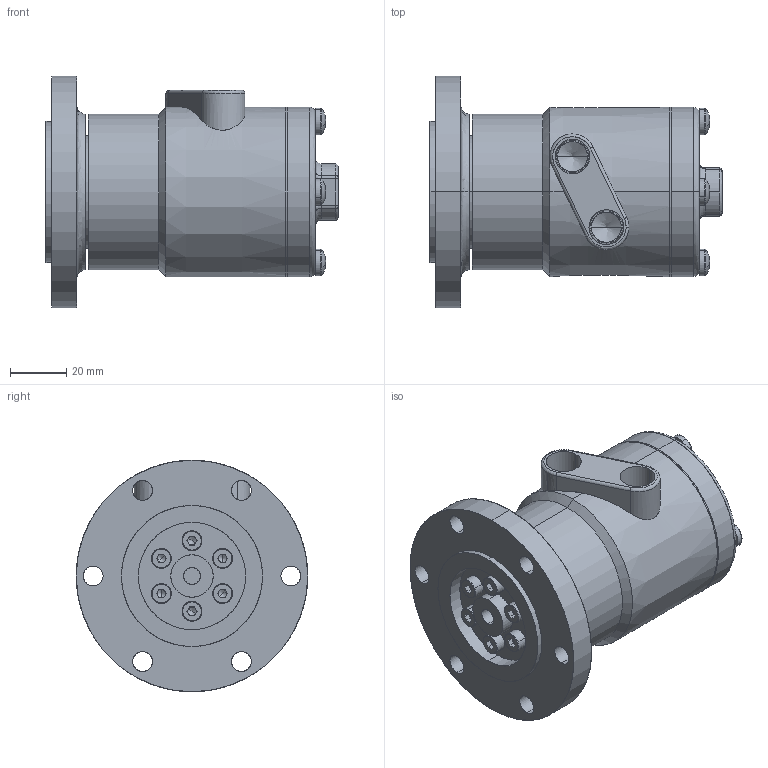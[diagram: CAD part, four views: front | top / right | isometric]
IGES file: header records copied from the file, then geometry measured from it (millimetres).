
Start section: SolidWorks IGES file using analytic representation for surfaces
Global section: file name: D:\Custom\3D繪製\回轉接頭\RJC-062L.IGS,   15; native system: HSolidWorks 2014; preprocessor: SolidWorks 2014; author: Chieh_Lu; date: 151122.154026; units: millimetre
Bounding box: 103.5 x 82 x 82 mm (x, y, z)
Surface area: 56444.3 mm2 (no closed solid volume)
Topology: 0 solids, 0 shells, 457 faces, 6256 edges, 6220 vertices
Faces by surface type: bspline 246, revolution 211
